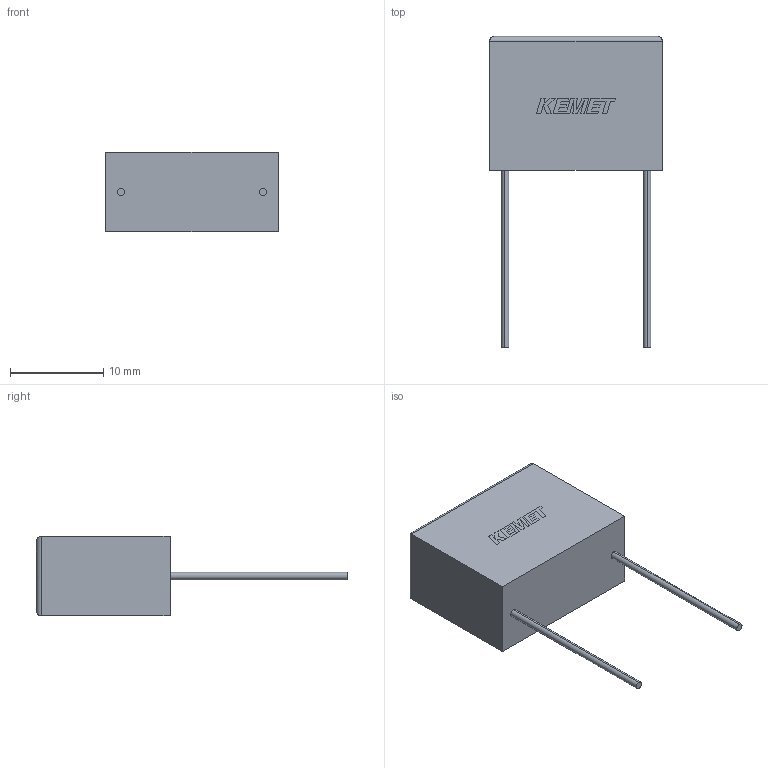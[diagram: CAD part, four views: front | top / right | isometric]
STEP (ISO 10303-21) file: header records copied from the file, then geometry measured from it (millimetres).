
FILE_DESCRIPTION (( 'STEP AP214' ), '1' );
FILE_NAME ('CFR_MOLDED_18.5X14.3X8.5_L18.5H14.3T8.5S15.20H019F0.80.STEP', '2019-06-07T15:23:44', ( '' ), ( '' ), 'SwSTEP 2.0', 'SolidWorks 2014', '' );
FILE_SCHEMA (( 'AUTOMOTIVE_DESIGN' ));
Length unit declared in the file: millimetre
Products named in the file (1): CFR_MOLDED_18.5X14.3X8.5_L18.5H14.3T8.5S15.20H019F0.80
Bounding box: 18.5 x 33.3 x 8.51 mm (x, y, z)
Volume: 2265 mm3; surface area: 1187 mm2
Topology: 4 solids, 4 shells, 73 faces, 185 edges, 122 vertices
Faces by surface type: plane 65, cylinder 8
Entity records: 2392 total; most frequent: CARTESIAN_POINT 393, ORIENTED_EDGE 370, DIRECTION 337, EDGE_CURVE 185, VECTOR 173, LINE 173, VERTEX_POINT 122, AXIS2_PLACEMENT_3D 82
